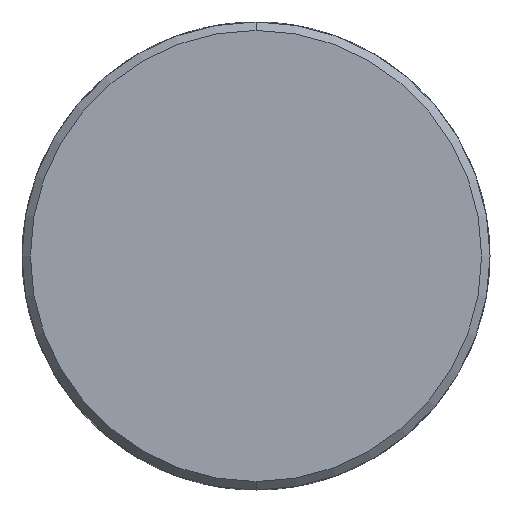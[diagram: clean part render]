
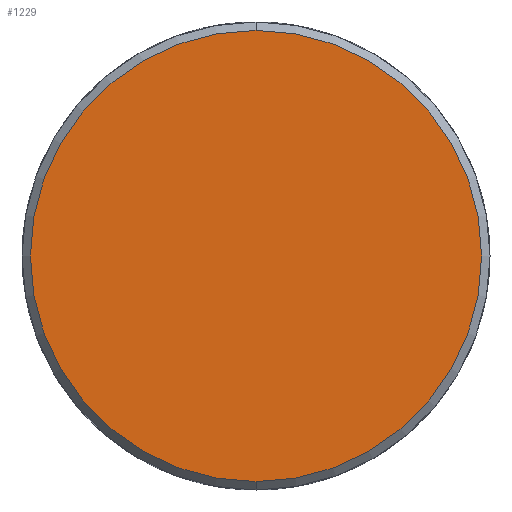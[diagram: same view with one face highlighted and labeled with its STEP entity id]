
A CAD part, front view. The second image highlights one B-rep face of the part: STEP entity #1229.
In plain terms, the highlighted planar face has unit normal (0, -1, 0).
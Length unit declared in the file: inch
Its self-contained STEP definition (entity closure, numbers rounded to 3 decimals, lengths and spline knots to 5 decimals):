
#479 = DIRECTION ( 'NONE',  ( 0., 0., 1. ) ) ;
#480 = DIRECTION ( 'NONE',  ( 0., -1., 0. ) ) ;
#481 = CARTESIAN_POINT ( 'NONE',  ( 0., 0., 0. ) ) ;
#482 = AXIS2_PLACEMENT_3D ( 'NONE', #481, #480, #479 ) ;
#487 = CIRCLE ( 'NONE', #482, 1.663 ) ;
#538 = CARTESIAN_POINT ( 'NONE',  ( 0., 0., 1.663 ) ) ;
#539 = CARTESIAN_POINT ( 'NONE',  ( 0., 0., -1.663 ) ) ;
#1225 = ORIENTED_EDGE ( 'NONE', *, *, #1262, .T. ) ;
#1227 = EDGE_LOOP ( 'NONE', ( #1225, #1598 ) ) ;
#1229 = ADVANCED_FACE ( 'NONE', ( #2670 ), #2669, .F. ) ;
#1262 = EDGE_CURVE ( 'NONE', #2256, #2255, #2792, .T. ) ;
#1598 = ORIENTED_EDGE ( 'NONE', *, *, #2254, .T. ) ;
#2254 = EDGE_CURVE ( 'NONE', #2255, #2256, #487, .T. ) ;
#2255 = VERTEX_POINT ( 'NONE', #539 ) ;
#2256 = VERTEX_POINT ( 'NONE', #538 ) ;
#2664 = DIRECTION ( 'NONE',  ( 0., 0., 1. ) ) ;
#2665 = DIRECTION ( 'NONE',  ( 0., 1., 0. ) ) ;
#2666 = AXIS2_PLACEMENT_3D ( 'NONE', #2668, #2665, #2664 ) ;
#2668 = CARTESIAN_POINT ( 'NONE',  ( 0., 0., 0. ) ) ;
#2669 = PLANE ( 'NONE',  #2666 ) ;
#2670 = FACE_OUTER_BOUND ( 'NONE', #1227, .T. ) ;
#2788 = DIRECTION ( 'NONE',  ( 0., 0., 1. ) ) ;
#2789 = DIRECTION ( 'NONE',  ( 0., -1., 0. ) ) ;
#2790 = CARTESIAN_POINT ( 'NONE',  ( 0., 0., 0. ) ) ;
#2791 = AXIS2_PLACEMENT_3D ( 'NONE', #2790, #2789, #2788 ) ;
#2792 = CIRCLE ( 'NONE', #2791, 1.663 ) ;
